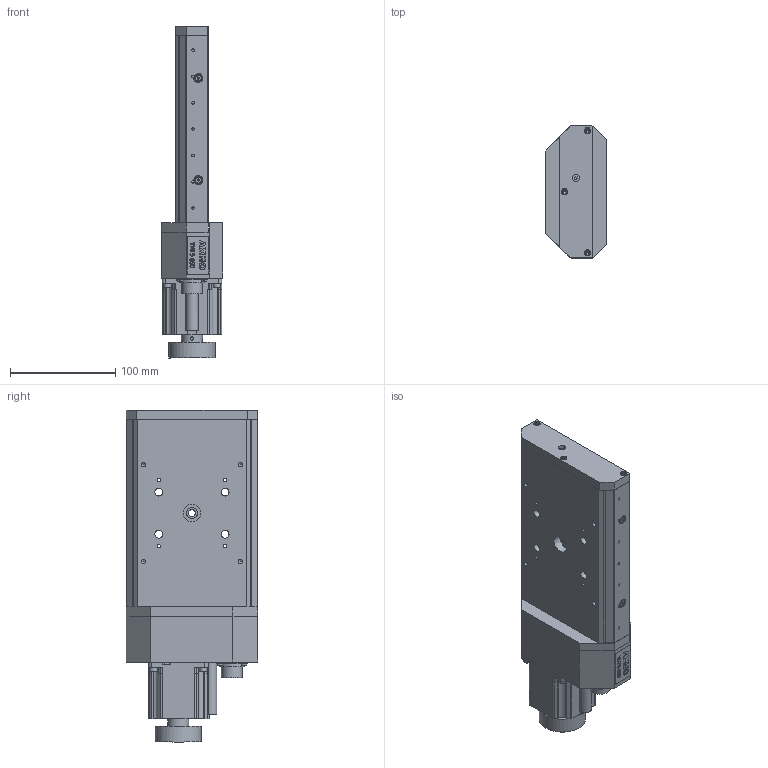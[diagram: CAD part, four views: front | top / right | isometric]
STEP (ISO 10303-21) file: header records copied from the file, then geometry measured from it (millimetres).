
FILE_DESCRIPTION((''),'2;1');
FILE_NAME('C:\Axmo\Axmo autodesk\Designs\Standard\1153 tmf\TMF3-050.stp','2011-09-13T16:16:51',('AXMOBE'),(''),'Autodesk Inventor 2011','Autodesk Inventor 2011','');
FILE_SCHEMA(('AUTOMOTIVE_DESIGN { 1 2 10303 214 0 1 1 1 }'));
Length unit declared in the file: millimetre
Products named in the file (1): 1153 03 ENS 000-050_Enveloppe_1
Bounding box: 58 x 125.1 x 315.5 mm (x, y, z)
Volume: 939968.5 mm3; surface area: 270423.9 mm2
Topology: 1 solids, 74 shells, 1915 faces, 4707 edges, 3037 vertices
Faces by surface type: plane 1103, cylinder 470, cone 183, torus 79, bspline 64, sphere 16
Full cylindrical faces by diameter (mm): 1 x10, 1.567 x2, 2.013 x22, 2.1 x2, 2.25 x2, 2.459 x59, 2.5 x3, 2.693 x4, 2.8 x2, 3 x27, 3.242 x35, 3.5 x17, 4 x8, 4.134 x4, 4.5 x2, 4.917 x8, 5 x5, 5.5 x19, 5.54 x4, 6 x30, 6.2 x1, 6.35 x3, 6.459 x2, 6.5 x1, 7 x12, 7.5 x16, 7.8 x1, 8 x2, 9 x1, 10 x4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
Entity records: 54512 total; most frequent: CARTESIAN_POINT 11973, DIRECTION 8254, ORIENTED_EDGE 7600, EDGE_CURVE 3800, AXIS2_PLACEMENT_3D 3068, EDGE_LOOP 2750, VERTEX_POINT 2710, VECTOR 2118
